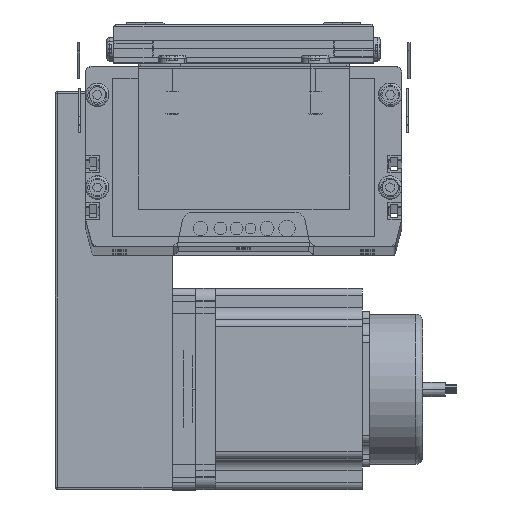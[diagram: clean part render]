
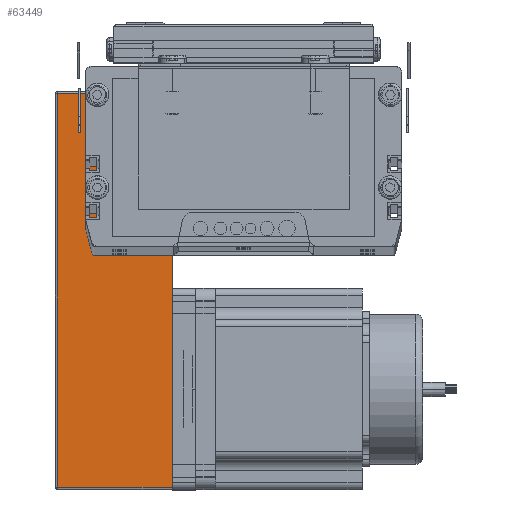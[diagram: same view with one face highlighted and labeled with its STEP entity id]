
A CAD part, top view. The second image highlights one B-rep face of the part: STEP entity #63449.
In plain terms, the highlighted planar face has unit normal (0, 0, 1) as drawn and (0, -1, 0) by its records, which use the part's own axes.
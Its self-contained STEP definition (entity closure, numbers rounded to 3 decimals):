
#4424 = CARTESIAN_POINT ( 'NONE',  ( 5.418, 0., 0. ) ) ;
#4542 = DIRECTION ( 'NONE',  ( -1., 0., 0. ) ) ;
#4543 = VECTOR ( 'NONE', #4542, 1000. ) ;
#4544 = CARTESIAN_POINT ( 'NONE',  ( 0., 0., 49. ) ) ;
#4545 = LINE ( 'NONE', #4544, #4543 ) ;
#4597 = DIRECTION ( 'NONE',  ( 0., 1., 0. ) ) ;
#4800 = DIRECTION ( 'NONE',  ( 0., 0., -1. ) ) ;
#4801 = VECTOR ( 'NONE', #4800, 1000. ) ;
#4802 = CARTESIAN_POINT ( 'NONE',  ( 1., 0., 50. ) ) ;
#4806 = LINE ( 'NONE', #4802, #4801 ) ;
#4836 = CARTESIAN_POINT ( 'NONE',  ( 0., 0., 50. ) ) ;
#4840 = AXIS2_PLACEMENT_3D ( 'NONE', #4836, #4597, #5090 ) ;
#4841 = PLANE ( 'NONE',  #4840 ) ;
#5090 = DIRECTION ( 'NONE',  ( 0., 0., 1. ) ) ;
#5254 = CARTESIAN_POINT ( 'NONE',  ( 1., 0., 49. ) ) ;
#5309 = LINE ( 'NONE', #5330, #5329 ) ;
#5313 = DIRECTION ( 'NONE',  ( 1., 0., 0. ) ) ;
#5314 = VECTOR ( 'NONE', #5313, 1000. ) ;
#5315 = CARTESIAN_POINT ( 'NONE',  ( 0., 0., 0. ) ) ;
#5317 = LINE ( 'NONE', #5315, #5314 ) ;
#5318 = DIRECTION ( 'NONE',  ( 1., 0., 0. ) ) ;
#5319 = VECTOR ( 'NONE', #5318, 1000. ) ;
#5320 = CARTESIAN_POINT ( 'NONE',  ( 0., 0., 0. ) ) ;
#5322 = DIRECTION ( 'NONE',  ( 1., 0., 0. ) ) ;
#5323 = VECTOR ( 'NONE', #5322, 1000. ) ;
#5324 = CARTESIAN_POINT ( 'NONE',  ( 0., 0., 0. ) ) ;
#5325 = LINE ( 'NONE', #5320, #5319 ) ;
#5327 = LINE ( 'NONE', #5324, #5323 ) ;
#5328 = DIRECTION ( 'NONE',  ( 1., 0., 0. ) ) ;
#5329 = VECTOR ( 'NONE', #5328, 1000. ) ;
#5330 = CARTESIAN_POINT ( 'NONE',  ( 0., 0., 0. ) ) ;
#5332 = DIRECTION ( 'NONE',  ( 0., 0., 1. ) ) ;
#5333 = VECTOR ( 'NONE', #5332, 1000. ) ;
#5346 = CARTESIAN_POINT ( 'NONE',  ( 169., 0., 50. ) ) ;
#5347 = LINE ( 'NONE', #5346, #5333 ) ;
#5350 = FACE_OUTER_BOUND ( 'NONE', #63500, .T. ) ;
#5361 = DIRECTION ( 'NONE',  ( 1., 0., 0. ) ) ;
#5362 = VECTOR ( 'NONE', #5361, 1000. ) ;
#5364 = CARTESIAN_POINT ( 'NONE',  ( 0., 0., 0. ) ) ;
#5365 = LINE ( 'NONE', #5364, #5362 ) ;
#5405 = CARTESIAN_POINT ( 'NONE',  ( 169., 0., 49. ) ) ;
#5443 = CARTESIAN_POINT ( 'NONE',  ( 1., 0., 0. ) ) ;
#12460 = CARTESIAN_POINT ( 'NONE',  ( 80.482, 0., 0. ) ) ;
#13978 = CARTESIAN_POINT ( 'NONE',  ( 74.998, 0., 0. ) ) ;
#18581 = VECTOR ( 'NONE', #18692, 1000. ) ;
#18582 = CARTESIAN_POINT ( 'NONE',  ( 0., 0., 0. ) ) ;
#18583 = LINE ( 'NONE', #18582, #18581 ) ;
#18692 = DIRECTION ( 'NONE',  ( 1., 0., 0. ) ) ;
#18898 = CARTESIAN_POINT ( 'NONE',  ( 169., 0., 0. ) ) ;
#20280 = CARTESIAN_POINT ( 'NONE',  ( 85.9, 0., 0. ) ) ;
#35702 = CARTESIAN_POINT ( 'NONE',  ( 10.902, 0., 0. ) ) ;
#51029 = VERTEX_POINT ( 'NONE', #12460 ) ;
#51682 = VERTEX_POINT ( 'NONE', #13978 ) ;
#52515 = VERTEX_POINT ( 'NONE', #35702 ) ;
#54777 = EDGE_CURVE ( 'NONE', #55404, #54830, #18583, .T. ) ;
#54830 = VERTEX_POINT ( 'NONE', #18898 ) ;
#55404 = VERTEX_POINT ( 'NONE', #20280 ) ;
#63017 = VERTEX_POINT ( 'NONE', #4424 ) ;
#63083 = EDGE_CURVE ( 'NONE', #63466, #63431, #4545, .T. ) ;
#63217 = EDGE_CURVE ( 'NONE', #63431, #63509, #4806, .T. ) ;
#63222 = ORIENTED_EDGE ( 'NONE', *, *, #63432, .T. ) ;
#63233 = ORIENTED_EDGE ( 'NONE', *, *, #63083, .T. ) ;
#63251 = ORIENTED_EDGE ( 'NONE', *, *, #63217, .T. ) ;
#63428 = ORIENTED_EDGE ( 'NONE', *, *, #63433, .T. ) ;
#63429 = ORIENTED_EDGE ( 'NONE', *, *, #63442, .T. ) ;
#63430 = ORIENTED_EDGE ( 'NONE', *, *, #63438, .T. ) ;
#63431 = VERTEX_POINT ( 'NONE', #5254 ) ;
#63432 = EDGE_CURVE ( 'NONE', #54830, #63466, #5347, .T. ) ;
#63433 = EDGE_CURVE ( 'NONE', #63017, #52515, #5309, .T. ) ;
#63435 = ORIENTED_EDGE ( 'NONE', *, *, #63437, .T. ) ;
#63436 = EDGE_CURVE ( 'NONE', #52515, #51682, #5327, .T. ) ;
#63437 = EDGE_CURVE ( 'NONE', #51682, #51029, #5325, .T. ) ;
#63438 = EDGE_CURVE ( 'NONE', #51029, #55404, #5317, .T. ) ;
#63442 = EDGE_CURVE ( 'NONE', #63509, #63017, #5365, .T. ) ;
#63449 = ADVANCED_FACE ( 'NONE', ( #5350 ), #4841, .F. ) ;
#63454 = ORIENTED_EDGE ( 'NONE', *, *, #63436, .T. ) ;
#63466 = VERTEX_POINT ( 'NONE', #5405 ) ;
#63498 = ORIENTED_EDGE ( 'NONE', *, *, #54777, .T. ) ;
#63500 = EDGE_LOOP ( 'NONE', ( #63429, #63428, #63454, #63435, #63430, #63498, #63222, #63233, #63251 ) ) ;
#63509 = VERTEX_POINT ( 'NONE', #5443 ) ;
